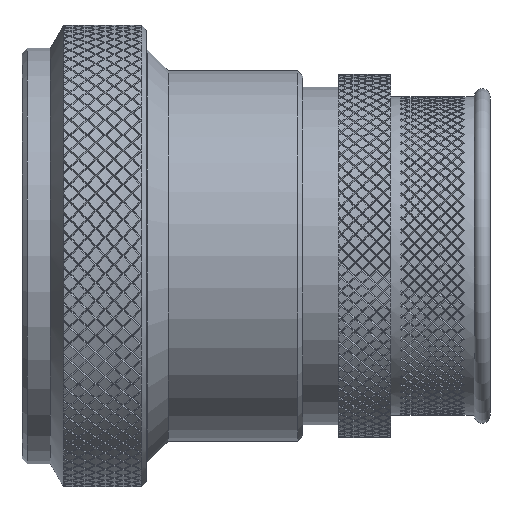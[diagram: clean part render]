
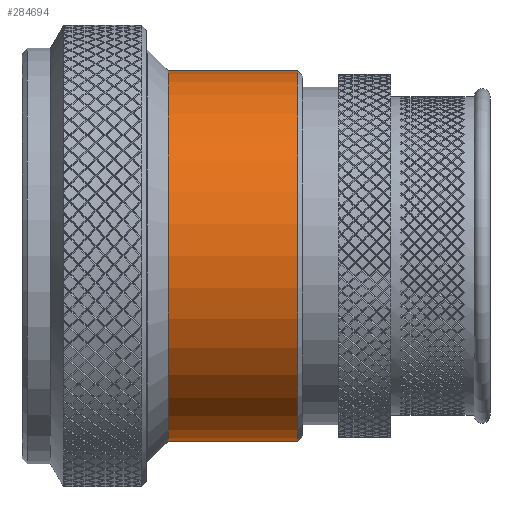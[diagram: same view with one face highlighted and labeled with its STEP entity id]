
A CAD part, top view. The second image highlights one B-rep face of the part: STEP entity #284694.
In plain terms, the highlighted cylindrical face has radius 17.725 mm (diameter 35.45 mm), a partial arc.
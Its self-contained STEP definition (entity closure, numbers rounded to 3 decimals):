
#72911=DIRECTION('',(-1.,0.,0.));
#72912=VECTOR('',#72911,12.41);
#72913=CARTESIAN_POINT('',(1.845,17.725,
0.));
#72914=LINE('',#72913,#72912);
#72915=DIRECTION('',(-1.,0.,0.));
#72916=VECTOR('',#72915,12.41);
#72917=CARTESIAN_POINT('',(1.845,-17.725,
0.));
#72918=LINE('',#72917,#72916);
#72919=CARTESIAN_POINT('',(1.845,0.,0.));
#72920=DIRECTION('',(-1.,0.,0.));
#72921=DIRECTION('',(0.,-1.,0.));
#72922=AXIS2_PLACEMENT_3D('',#72919,#72920,#72921);
#72928=CARTESIAN_POINT('',(-10.565,0.,0.));
#72929=DIRECTION('',(1.,0.,0.));
#72930=DIRECTION('',(0.,1.,0.));
#72931=AXIS2_PLACEMENT_3D('',#72928,#72929,#72930);
#94113=CARTESIAN_POINT('',(-10.565,17.725,0.));
#94115=VERTEX_POINT('',#94113);
#94141=CARTESIAN_POINT('',(-10.565,-17.725,0.));
#94143=VERTEX_POINT('',#94141);
#94163=CARTESIAN_POINT('',(1.845,17.725,0.));
#94164=CARTESIAN_POINT('',(1.845,-17.725,0.));
#94165=VERTEX_POINT('',#94163);
#94166=VERTEX_POINT('',#94164);
#284681=CARTESIAN_POINT('',(-22.27,0.,0.));
#284682=DIRECTION('',(1.,0.,0.));
#284683=DIRECTION('',(0.,-1.,0.));
#284684=AXIS2_PLACEMENT_3D('',#284681,#284682,#284683);
#284685=CYLINDRICAL_SURFACE('',#284684,17.725);
#284687=ORIENTED_EDGE('',*,*,#284686,.F.);
#284688=ORIENTED_EDGE('',*,*,#284676,.T.);
#284690=ORIENTED_EDGE('',*,*,#284689,.F.);
#284691=ORIENTED_EDGE('',*,*,#284672,.F.);
#284692=EDGE_LOOP('',(#284687,#284688,#284690,#284691));
#284693=FACE_OUTER_BOUND('',#284692,.F.);
#284694=ADVANCED_FACE('',(#284693),#284685,.T.);
#72923=CIRCLE('',#72922,17.725);
#72932=CIRCLE('',#72931,17.725);
#284672=EDGE_CURVE('',#94165,#94115,#72914,.T.);
#284676=EDGE_CURVE('',#94166,#94143,#72918,.T.);
#284686=EDGE_CURVE('',#94166,#94165,#72923,.T.);
#284689=EDGE_CURVE('',#94115,#94143,#72932,.T.);
